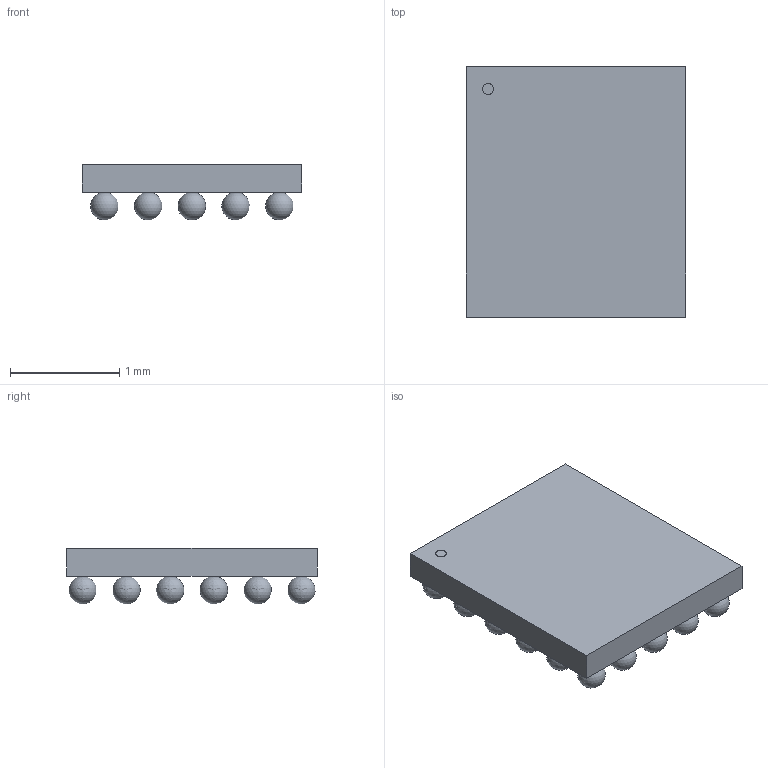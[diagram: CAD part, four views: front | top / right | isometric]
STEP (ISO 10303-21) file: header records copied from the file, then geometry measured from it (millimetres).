
FILE_DESCRIPTION(('STEP AP214'),'1');
FILE_NAME('DSBGA30_YBG_TEX','2026-03-28T09:12:18',(''),(''),'','','');
FILE_SCHEMA(('AUTOMOTIVE_DESIGN'));
Length unit declared in the file: millimetre
Products named in the file (1): product
Bounding box: 2.01 x 2.29 x 0.51 mm (x, y, z)
Volume: 1.4 mm3; surface area: 17.5 mm2
Topology: 32 solids, 32 shells, 39 faces, 105 edges, 70 vertices
Faces by surface type: sphere 30, plane 8, cylinder 1
Full cylindrical faces by diameter (mm): 0.1 x1
Entity records: 643 total; most frequent: DIRECTION 98, CARTESIAN_POINT 53, AXIS2_PLACEMENT_3D 43, STYLED_ITEM 39, ADVANCED_FACE 39, MANIFOLD_SOLID_BREP 32, CLOSED_SHELL 32, SPHERICAL_SURFACE 30
